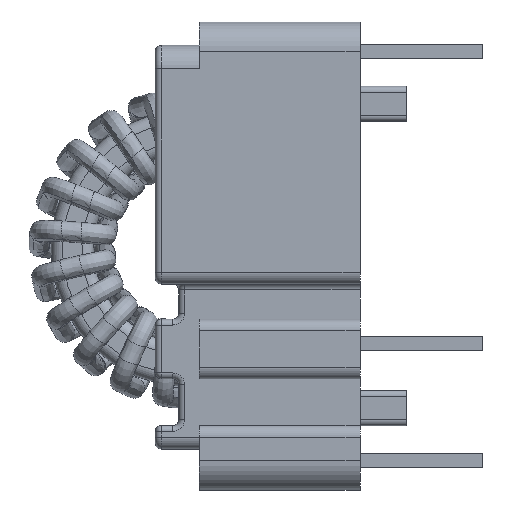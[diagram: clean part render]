
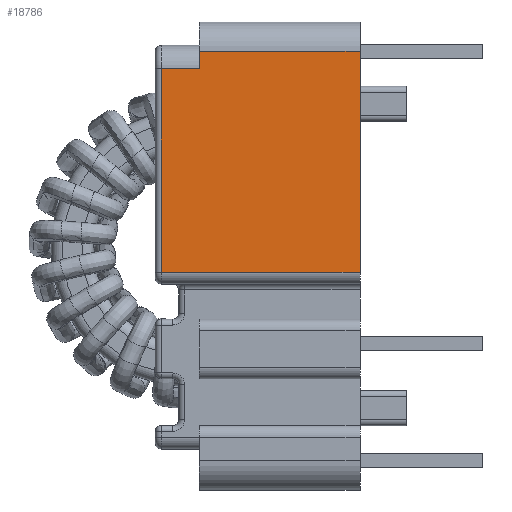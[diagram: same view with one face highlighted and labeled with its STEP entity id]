
A CAD part, left-side view. The second image highlights one B-rep face of the part: STEP entity #18786.
In plain terms, the highlighted planar face has unit normal (-1, 0, 0).
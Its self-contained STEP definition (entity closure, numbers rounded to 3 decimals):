
#647 = VECTOR ( 'NONE', #28622, 1000. ) ;
#1367 = VECTOR ( 'NONE', #44386, 1000. ) ;
#3924 = VERTEX_POINT ( 'NONE', #13064 ) ;
#4348 = VERTEX_POINT ( 'NONE', #38710 ) ;
#7904 = CARTESIAN_POINT ( 'NONE',  ( -5.715, 6.985, -2.032 ) ) ;
#8665 = AXIS2_PLACEMENT_3D ( 'NONE', #33319, #36818, #16052 ) ;
#9094 = PLANE ( 'NONE',  #8665 ) ;
#9778 = ORIENTED_EDGE ( 'NONE', *, *, #14201, .T. ) ;
#9998 = VERTEX_POINT ( 'NONE', #28659 ) ;
#10753 = EDGE_CURVE ( 'NONE', #37401, #9998, #38241, .T. ) ;
#11484 = VECTOR ( 'NONE', #22000, 1000. ) ;
#11494 = VECTOR ( 'NONE', #28201, 1000. ) ;
#11948 = EDGE_CURVE ( 'NONE', #21305, #24550, #19077, .T. ) ;
#13064 = CARTESIAN_POINT ( 'NONE',  ( -5.715, 0., -1.27 ) ) ;
#13353 = CARTESIAN_POINT ( 'NONE',  ( -5.715, 8.636, -10.871 ) ) ;
#13907 = ORIENTED_EDGE ( 'NONE', *, *, #43262, .T. ) ;
#14201 = EDGE_CURVE ( 'NONE', #3924, #4348, #20747, .T. ) ;
#14370 = CARTESIAN_POINT ( 'NONE',  ( -5.715, 0., -20.32 ) ) ;
#16052 = DIRECTION ( 'NONE',  ( 0., 0., -1. ) ) ;
#16169 = CARTESIAN_POINT ( 'NONE',  ( -5.715, 6.985, -20.32 ) ) ;
#17146 = ORIENTED_EDGE ( 'NONE', *, *, #11948, .T. ) ;
#18786 = ADVANCED_FACE ( 'NONE', ( #24546 ), #9094, .F. ) ;
#19077 = LINE ( 'NONE', #7904, #647 ) ;
#20214 = CARTESIAN_POINT ( 'NONE',  ( -5.715, 8.636, -2.032 ) ) ;
#20747 = LINE ( 'NONE', #32281, #11484 ) ;
#21305 = VERTEX_POINT ( 'NONE', #37076 ) ;
#22000 = DIRECTION ( 'NONE',  ( 0., 1., 0. ) ) ;
#23310 = ORIENTED_EDGE ( 'NONE', *, *, #10753, .T. ) ;
#24546 = FACE_OUTER_BOUND ( 'NONE', #30410, .T. ) ;
#24550 = VERTEX_POINT ( 'NONE', #20214 ) ;
#24674 = EDGE_CURVE ( 'NONE', #24550, #37401, #29983, .T. ) ;
#24718 = DIRECTION ( 'NONE',  ( 0., 0., 1. ) ) ;
#26118 = ORIENTED_EDGE ( 'NONE', *, *, #41259, .F. ) ;
#28201 = DIRECTION ( 'NONE',  ( 0., 0., -1. ) ) ;
#28622 = DIRECTION ( 'NONE',  ( 0., 1., 0. ) ) ;
#28659 = CARTESIAN_POINT ( 'NONE',  ( -5.715, 0., -10.871 ) ) ;
#29761 = LINE ( 'NONE', #14370, #37890 ) ;
#29983 = LINE ( 'NONE', #13353, #11494 ) ;
#30129 = DIRECTION ( 'NONE',  ( 0., 0., 1. ) ) ;
#30410 = EDGE_LOOP ( 'NONE', ( #17146, #43780, #23310, #13907, #9778, #26118 ) ) ;
#32281 = CARTESIAN_POINT ( 'NONE',  ( -5.715, 6.985, -1.27 ) ) ;
#33128 = LINE ( 'NONE', #16169, #41256 ) ;
#33319 = CARTESIAN_POINT ( 'NONE',  ( -5.715, 6.985, -20.32 ) ) ;
#36818 = DIRECTION ( 'NONE',  ( 1., 0., 0. ) ) ;
#37076 = CARTESIAN_POINT ( 'NONE',  ( -5.715, 6.985, -2.032 ) ) ;
#37401 = VERTEX_POINT ( 'NONE', #38388 ) ;
#37555 = CARTESIAN_POINT ( 'NONE',  ( -5.715, 0., -10.871 ) ) ;
#37890 = VECTOR ( 'NONE', #24718, 1000. ) ;
#38241 = LINE ( 'NONE', #37555, #1367 ) ;
#38388 = CARTESIAN_POINT ( 'NONE',  ( -5.715, 8.636, -10.871 ) ) ;
#38710 = CARTESIAN_POINT ( 'NONE',  ( -5.715, 6.985, -1.27 ) ) ;
#41256 = VECTOR ( 'NONE', #30129, 1000. ) ;
#41259 = EDGE_CURVE ( 'NONE', #21305, #4348, #33128, .T. ) ;
#43262 = EDGE_CURVE ( 'NONE', #9998, #3924, #29761, .T. ) ;
#43780 = ORIENTED_EDGE ( 'NONE', *, *, #24674, .T. ) ;
#44386 = DIRECTION ( 'NONE',  ( 0., -1., 0. ) ) ;
